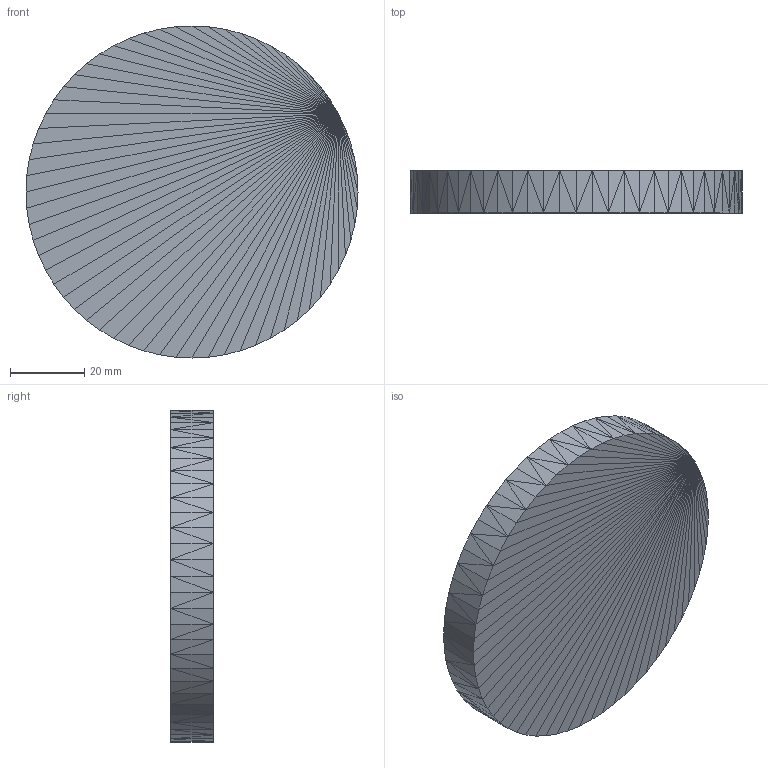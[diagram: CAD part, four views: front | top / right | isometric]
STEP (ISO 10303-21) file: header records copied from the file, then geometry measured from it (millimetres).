
FILE_DESCRIPTION(('Open CASCADE Model'),'2;1');
FILE_NAME('Open CASCADE Shape Model','2026-07-28T00:00:00+00:00',( 'Author'),('Open CASCADE'),'Open CASCADE STEP processor 7.8', 'build123d','Unknown');
FILE_SCHEMA(('AUTOMOTIVE_DESIGN { 1 0 10303 214 1 1 1 1 }'));
Length unit declared in the file: millimetre
Products named in the file (1): SOLID
Bounding box: 89.5 x 11.4 x 89.5 mm (x, y, z)
Volume: 71604.9 mm3; surface area: 15766.3 mm2
Topology: 1 solids, 1 shells, 252 faces, 378 edges, 128 vertices
Faces by surface type: plane 252
Entity records: 9472 total; most frequent: CARTESIAN_POINT 1893, DIRECTION 1262, ORIENTED_EDGE 756, LINE 756, VECTOR 756, PCURVE 756, DEFINITIONAL_REPRESENTATION 756, EDGE_CURVE 378
